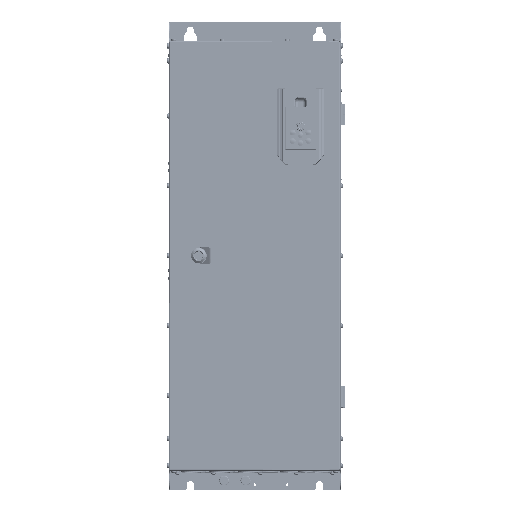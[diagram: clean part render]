
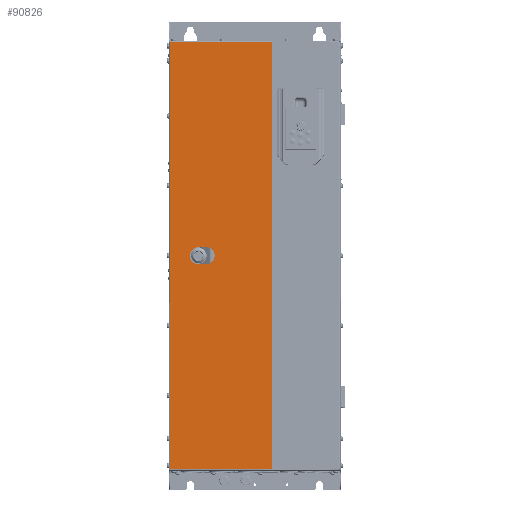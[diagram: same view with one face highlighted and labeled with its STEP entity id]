
A CAD part, top view. The second image highlights one B-rep face of the part: STEP entity #90826.
In plain terms, the highlighted planar face has unit normal (0, 0, 1).
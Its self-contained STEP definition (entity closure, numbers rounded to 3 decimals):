
#88957=DIRECTION('',(0.,-1.,0.));
#88958=VECTOR('',#88957,795.05);
#88959=CARTESIAN_POINT('',(-157.25,797.75,10.5));
#88960=LINE('',#88959,#88958);
#89297=DIRECTION('',(1.,0.,0.));
#89298=VECTOR('',#89297,189.25);
#89299=CARTESIAN_POINT('',(-157.25,2.7,10.5));
#89300=LINE('',#89299,#89298);
#89326=DIRECTION('',(1.,0.,0.));
#89327=VECTOR('',#89326,12.052);
#89328=CARTESIAN_POINT('',(-110.526,409.5,10.5));
#89329=LINE('',#89328,#89327);
#89333=CARTESIAN_POINT('',(-104.5,400.,10.5));
#89334=DIRECTION('',(0.,0.,1.));
#89335=DIRECTION('',(-0.536,0.844,0.));
#89336=AXIS2_PLACEMENT_3D('',#89333,#89334,#89335);
#89341=DIRECTION('',(0.,1.,0.));
#89342=VECTOR('',#89341,12.052);
#89343=CARTESIAN_POINT('',(-114.,393.974,10.5));
#89344=LINE('',#89343,#89342);
#89348=CARTESIAN_POINT('',(-104.5,400.,10.5));
#89349=DIRECTION('',(0.,0.,1.));
#89350=DIRECTION('',(-0.844,-0.536,0.));
#89351=AXIS2_PLACEMENT_3D('',#89348,#89349,#89350);
#89356=DIRECTION('',(-1.,0.,0.));
#89357=VECTOR('',#89356,12.052);
#89358=CARTESIAN_POINT('',(-98.474,390.5,10.5));
#89359=LINE('',#89358,#89357);
#89363=CARTESIAN_POINT('',(-104.5,400.,10.5));
#89364=DIRECTION('',(0.,0.,1.));
#89365=DIRECTION('',(0.536,-0.844,0.));
#89366=AXIS2_PLACEMENT_3D('',#89363,#89364,#89365);
#89371=DIRECTION('',(0.,-1.,0.));
#89372=VECTOR('',#89371,12.052);
#89373=CARTESIAN_POINT('',(-95.,406.026,10.5));
#89374=LINE('',#89373,#89372);
#89378=CARTESIAN_POINT('',(-104.5,400.,10.5));
#89379=DIRECTION('',(0.,0.,1.));
#89380=DIRECTION('',(0.844,0.536,0.));
#89381=AXIS2_PLACEMENT_3D('',#89378,#89379,#89380);
#89386=DIRECTION('',(0.,-1.,0.));
#89387=VECTOR('',#89386,795.05);
#89388=CARTESIAN_POINT('',(32.,797.75,10.5));
#89389=LINE('',#89388,#89387);
#89471=DIRECTION('',(1.,0.,0.));
#89472=VECTOR('',#89471,189.25);
#89473=CARTESIAN_POINT('',(-157.25,797.75,10.5));
#89474=LINE('',#89473,#89472);
#90197=CARTESIAN_POINT('',(-157.25,797.75,10.5));
#90198=CARTESIAN_POINT('',(-157.25,2.7,10.5));
#90199=VERTEX_POINT('',#90197);
#90200=VERTEX_POINT('',#90198);
#90310=CARTESIAN_POINT('',(-110.526,409.5,10.5));
#90311=CARTESIAN_POINT('',(-98.474,409.5,10.5));
#90312=VERTEX_POINT('',#90310);
#90313=VERTEX_POINT('',#90311);
#90314=CARTESIAN_POINT('',(-95.,406.026,10.5));
#90315=VERTEX_POINT('',#90314);
#90316=CARTESIAN_POINT('',(-95.,393.974,10.5));
#90317=VERTEX_POINT('',#90316);
#90318=CARTESIAN_POINT('',(-98.474,390.5,10.5));
#90319=VERTEX_POINT('',#90318);
#90320=CARTESIAN_POINT('',(-110.526,390.5,10.5));
#90321=VERTEX_POINT('',#90320);
#90322=CARTESIAN_POINT('',(-114.,393.974,10.5));
#90323=VERTEX_POINT('',#90322);
#90324=CARTESIAN_POINT('',(-114.,406.026,10.5));
#90325=VERTEX_POINT('',#90324);
#90342=CARTESIAN_POINT('',(32.,797.75,10.5));
#90343=CARTESIAN_POINT('',(32.,2.7,10.5));
#90344=VERTEX_POINT('',#90342);
#90345=VERTEX_POINT('',#90343);
#90796=CARTESIAN_POINT('',(-159.5,800.,10.5));
#90797=DIRECTION('',(0.,0.,1.));
#90798=DIRECTION('',(0.,-1.,0.));
#90799=AXIS2_PLACEMENT_3D('',#90796,#90797,#90798);
#90800=PLANE('',#90799);
#90801=ORIENTED_EDGE('',*,*,#90787,.T.);
#90802=ORIENTED_EDGE('',*,*,#90738,.F.);
#90803=ORIENTED_EDGE('',*,*,#90498,.F.);
#90805=ORIENTED_EDGE('',*,*,#90804,.T.);
#90806=EDGE_LOOP('',(#90801,#90802,#90803,#90805));
#90807=FACE_OUTER_BOUND('',#90806,.F.);
#90809=ORIENTED_EDGE('',*,*,#90808,.F.);
#90811=ORIENTED_EDGE('',*,*,#90810,.T.);
#90813=ORIENTED_EDGE('',*,*,#90812,.F.);
#90815=ORIENTED_EDGE('',*,*,#90814,.T.);
#90817=ORIENTED_EDGE('',*,*,#90816,.F.);
#90819=ORIENTED_EDGE('',*,*,#90818,.T.);
#90821=ORIENTED_EDGE('',*,*,#90820,.F.);
#90823=ORIENTED_EDGE('',*,*,#90822,.T.);
#90824=EDGE_LOOP('',(#90809,#90811,#90813,#90815,#90817,#90819,#90821,#90823));
#90825=FACE_BOUND('',#90824,.F.);
#90826=ADVANCED_FACE('',(#90807,#90825),#90800,.T.);
#89337=CIRCLE('',#89336,11.25);
#89352=CIRCLE('',#89351,11.25);
#89367=CIRCLE('',#89366,11.25);
#89382=CIRCLE('',#89381,11.25);
#90498=EDGE_CURVE('',#90199,#90200,#88960,.T.);
#90738=EDGE_CURVE('',#90200,#90345,#89300,.T.);
#90787=EDGE_CURVE('',#90344,#90345,#89389,.T.);
#90804=EDGE_CURVE('',#90199,#90344,#89474,.T.);
#90808=EDGE_CURVE('',#90312,#90313,#89329,.T.);
#90810=EDGE_CURVE('',#90312,#90325,#89337,.T.);
#90812=EDGE_CURVE('',#90323,#90325,#89344,.T.);
#90814=EDGE_CURVE('',#90323,#90321,#89352,.T.);
#90816=EDGE_CURVE('',#90319,#90321,#89359,.T.);
#90818=EDGE_CURVE('',#90319,#90317,#89367,.T.);
#90820=EDGE_CURVE('',#90315,#90317,#89374,.T.);
#90822=EDGE_CURVE('',#90315,#90313,#89382,.T.);
